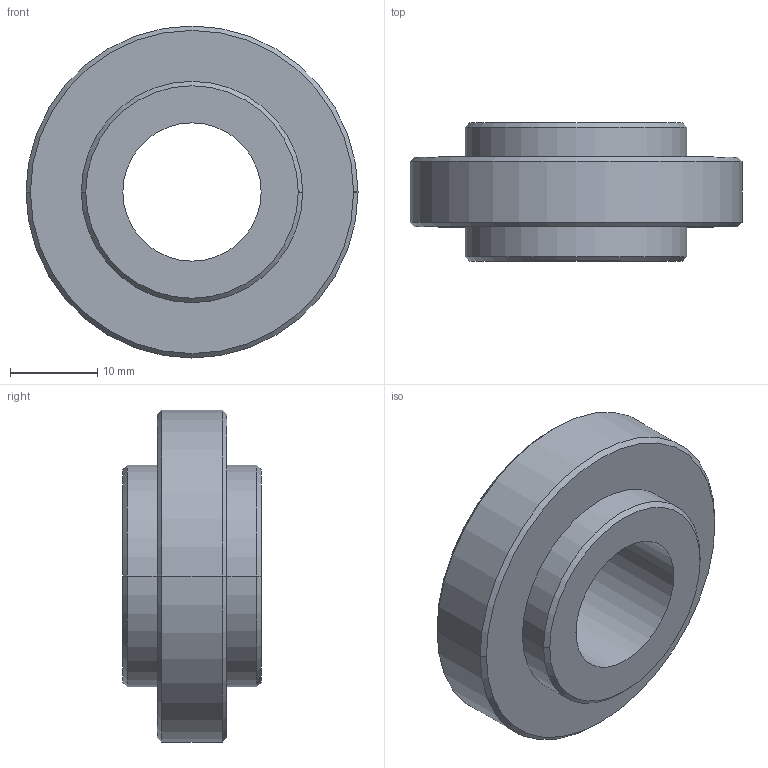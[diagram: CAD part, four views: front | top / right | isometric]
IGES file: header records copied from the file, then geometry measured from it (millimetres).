
Global section: file name: C:\Documents and Settings\Administrator\Desktop\Transfer Temp\extrusionroller.igs; native system: AutoDesk Inventor R2.0 ; preprocessor: AutoDesk Inventor Iges Exporter R2.0; author: No Author specified; organization: No Organization specified; date: 20020127.101125; units: inch
Bounding box: 38.1 x 15.88 x 38.1 mm (x, y, z)
Surface area: 4141.8 mm2 (no closed solid volume)
Topology: 0 solids, 0 shells, 20 faces, 80 edges, 80 vertices
Faces by surface type: revolution 14, bspline 6
